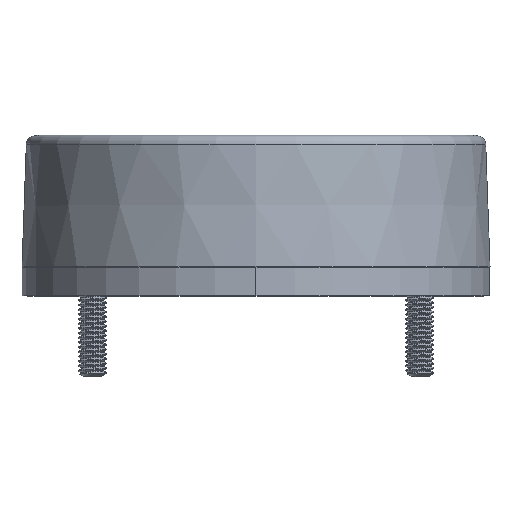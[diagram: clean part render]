
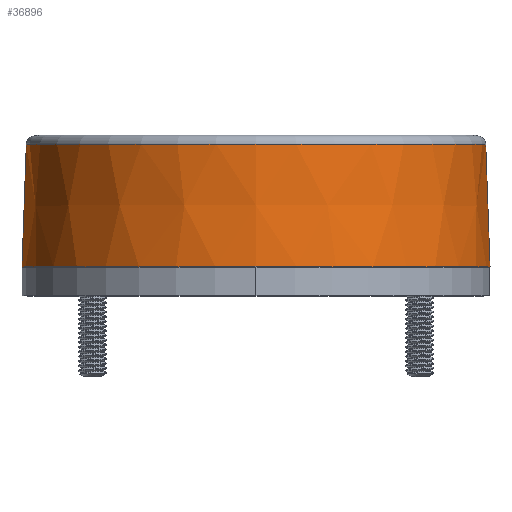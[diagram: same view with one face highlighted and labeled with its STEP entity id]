
A CAD part, top view. The second image highlights one B-rep face of the part: STEP entity #36896.
In plain terms, the highlighted conical face has half-angle 2 degrees and reference radius 25 mm.
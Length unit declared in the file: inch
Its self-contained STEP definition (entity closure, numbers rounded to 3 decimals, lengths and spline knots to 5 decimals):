
#1012 = CARTESIAN_POINT ( 'NONE',  ( -1.05412, 0.59699, 0.01331 ) ) ;
#3292 = AXIS2_PLACEMENT_3D ( 'NONE', #16485, #16483, #16474 ) ;
#3733 = AXIS2_PLACEMENT_3D ( 'NONE', #6981, #6982, #6983 ) ;
#5434 = AXIS2_PLACEMENT_3D ( 'NONE', #17363, #17364, #17365 ) ;
#6981 = CARTESIAN_POINT ( 'NONE',  ( -0.08785, 0.59699, 0.01331 ) ) ;
#6982 = DIRECTION ( 'NONE',  ( 0., -1., 0. ) ) ;
#6983 = DIRECTION ( 'NONE',  ( -1., 0., 0. ) ) ;
#7532 = LINE ( 'NONE', #20557, #7535 ) ;
#7535 = VECTOR ( 'NONE', #20567, 39.37008 ) ;
#10405 = EDGE_LOOP ( 'NONE', ( #61679, #61470, #60474, #59294 ) ) ;
#16474 = DIRECTION ( 'NONE',  ( 1., 0., 0. ) ) ;
#16483 = DIRECTION ( 'NONE',  ( 0., -1., 0. ) ) ;
#16485 = CARTESIAN_POINT ( 'NONE',  ( -0.08785, 0.08223, 0.01331 ) ) ;
#17363 = CARTESIAN_POINT ( 'NONE',  ( -0.08785, 0.08223, 0.01331 ) ) ;
#17364 = DIRECTION ( 'NONE',  ( 0., -1., 0. ) ) ;
#17365 = DIRECTION ( 'NONE',  ( 1., 0., 0. ) ) ;
#19207 = CIRCLE ( 'NONE', #3733, 0.96628 ) ;
#19575 = CARTESIAN_POINT ( 'NONE',  ( 0.89641, 0.08223, 0.01331 ) ) ;
#19581 = DIRECTION ( 'NONE',  ( 0.035, -0.999, 0. ) ) ;
#20557 = CARTESIAN_POINT ( 'NONE',  ( -1.0721, 0.08223, 0.01331 ) ) ;
#20567 = DIRECTION ( 'NONE',  ( -0.035, -0.999, 0. ) ) ;
#33952 = CIRCLE ( 'NONE', #5434, 0.98425 ) ;
#35559 = LINE ( 'NONE', #19575, #35563 ) ;
#35563 = VECTOR ( 'NONE', #19581, 39.37008 ) ;
#36896 = ADVANCED_FACE ( 'NONE', ( #49128 ), #49133, .T. ) ;
#40550 = CARTESIAN_POINT ( 'NONE',  ( 0.87843, 0.59699, 0.01331 ) ) ;
#40673 = CARTESIAN_POINT ( 'NONE',  ( 0.89641, 0.08223, 0.01331 ) ) ;
#40756 = CARTESIAN_POINT ( 'NONE',  ( -1.0721, 0.08223, 0.01331 ) ) ;
#45004 = VERTEX_POINT ( 'NONE', #1012 ) ;
#49128 = FACE_OUTER_BOUND ( 'NONE', #10405, .T. ) ;
#49133 = CONICAL_SURFACE ( 'NONE', #3292, 0.98425, 0.035 ) ;
#49888 = EDGE_CURVE ( 'NONE', #63168, #45004, #19207, .T. ) ;
#50279 = EDGE_CURVE ( 'NONE', #63291, #63374, #33952, .T. ) ;
#53866 = EDGE_CURVE ( 'NONE', #63168, #63291, #35559, .T. ) ;
#54712 = EDGE_CURVE ( 'NONE', #45004, #63374, #7532, .T. ) ;
#59294 = ORIENTED_EDGE ( 'NONE', *, *, #53866, .F. ) ;
#60474 = ORIENTED_EDGE ( 'NONE', *, *, #50279, .F. ) ;
#61470 = ORIENTED_EDGE ( 'NONE', *, *, #54712, .T. ) ;
#61679 = ORIENTED_EDGE ( 'NONE', *, *, #49888, .T. ) ;
#63168 = VERTEX_POINT ( 'NONE', #40550 ) ;
#63291 = VERTEX_POINT ( 'NONE', #40673 ) ;
#63374 = VERTEX_POINT ( 'NONE', #40756 ) ;
